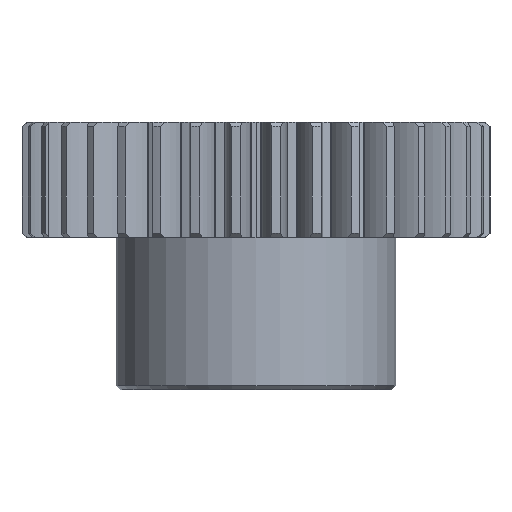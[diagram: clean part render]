
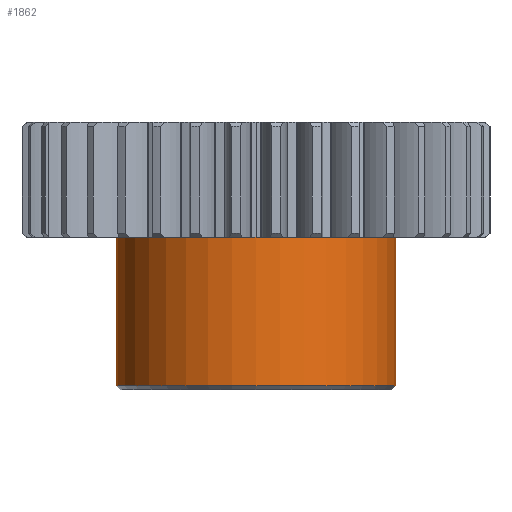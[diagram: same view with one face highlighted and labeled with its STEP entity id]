
A CAD part, left-side view. The second image highlights one B-rep face of the part: STEP entity #1862.
In plain terms, the highlighted cylindrical face has radius 34 mm (diameter 68 mm), a partial arc.
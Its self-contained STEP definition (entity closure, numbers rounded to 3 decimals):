
#524 = DIRECTION ( 'NONE',  ( 0., 0., -1. ) ) ;
#1862 = ADVANCED_FACE ( 'NONE', ( #13576 ), #32828, .T. ) ;
#2503 = CARTESIAN_POINT ( 'NONE',  ( 0., -34., 1.02 ) ) ;
#3529 = CARTESIAN_POINT ( 'NONE',  ( 0., -34., 37. ) ) ;
#3702 = EDGE_CURVE ( 'NONE', #25591, #32267, #12657, .T. ) ;
#3926 = EDGE_CURVE ( 'NONE', #32267, #18550, #27159, .T. ) ;
#4197 = ORIENTED_EDGE ( 'NONE', *, *, #3926, .T. ) ;
#5111 = CARTESIAN_POINT ( 'NONE',  ( 0., 34., 37. ) ) ;
#6884 = CARTESIAN_POINT ( 'NONE',  ( 0., 0., 1.02 ) ) ;
#9389 = DIRECTION ( 'NONE',  ( 0., 1., 0. ) ) ;
#10275 = LINE ( 'NONE', #15643, #31640 ) ;
#11290 = AXIS2_PLACEMENT_3D ( 'NONE', #6884, #25958, #34618 ) ;
#12657 = LINE ( 'NONE', #18542, #31475 ) ;
#13576 = FACE_OUTER_BOUND ( 'NONE', #23546, .T. ) ;
#13769 = EDGE_CURVE ( 'NONE', #25859, #25591, #26869, .T. ) ;
#13828 = CARTESIAN_POINT ( 'NONE',  ( 0., 34., 1.02 ) ) ;
#13992 = CARTESIAN_POINT ( 'NONE',  ( 0., 0., 37. ) ) ;
#15643 = CARTESIAN_POINT ( 'NONE',  ( 0., -34., 0. ) ) ;
#17524 = ORIENTED_EDGE ( 'NONE', *, *, #13769, .T. ) ;
#18542 = CARTESIAN_POINT ( 'NONE',  ( 0., 34., 0. ) ) ;
#18550 = VERTEX_POINT ( 'NONE', #2503 ) ;
#18925 = ORIENTED_EDGE ( 'NONE', *, *, #22178, .F. ) ;
#18970 = AXIS2_PLACEMENT_3D ( 'NONE', #34140, #34370, #9389 ) ;
#19573 = DIRECTION ( 'NONE',  ( 0., 1., 0. ) ) ;
#22178 = EDGE_CURVE ( 'NONE', #25859, #18550, #10275, .T. ) ;
#23546 = EDGE_LOOP ( 'NONE', ( #18925, #17524, #28495, #4197 ) ) ;
#25591 = VERTEX_POINT ( 'NONE', #5111 ) ;
#25859 = VERTEX_POINT ( 'NONE', #3529 ) ;
#25958 = DIRECTION ( 'NONE',  ( 0., 0., 1. ) ) ;
#26869 = CIRCLE ( 'NONE', #27255, 34. ) ;
#27159 = CIRCLE ( 'NONE', #11290, 34. ) ;
#27255 = AXIS2_PLACEMENT_3D ( 'NONE', #13992, #524, #19573 ) ;
#28495 = ORIENTED_EDGE ( 'NONE', *, *, #3702, .T. ) ;
#31475 = VECTOR ( 'NONE', #32239, 1000. ) ;
#31640 = VECTOR ( 'NONE', #35078, 1000. ) ;
#32239 = DIRECTION ( 'NONE',  ( 0., 0., -1. ) ) ;
#32267 = VERTEX_POINT ( 'NONE', #13828 ) ;
#32828 = CYLINDRICAL_SURFACE ( 'NONE', #18970, 34. ) ;
#34140 = CARTESIAN_POINT ( 'NONE',  ( 0., 0., 0. ) ) ;
#34370 = DIRECTION ( 'NONE',  ( 0., 0., -1. ) ) ;
#34618 = DIRECTION ( 'NONE',  ( 0., 1., 0. ) ) ;
#35078 = DIRECTION ( 'NONE',  ( 0., 0., -1. ) ) ;
